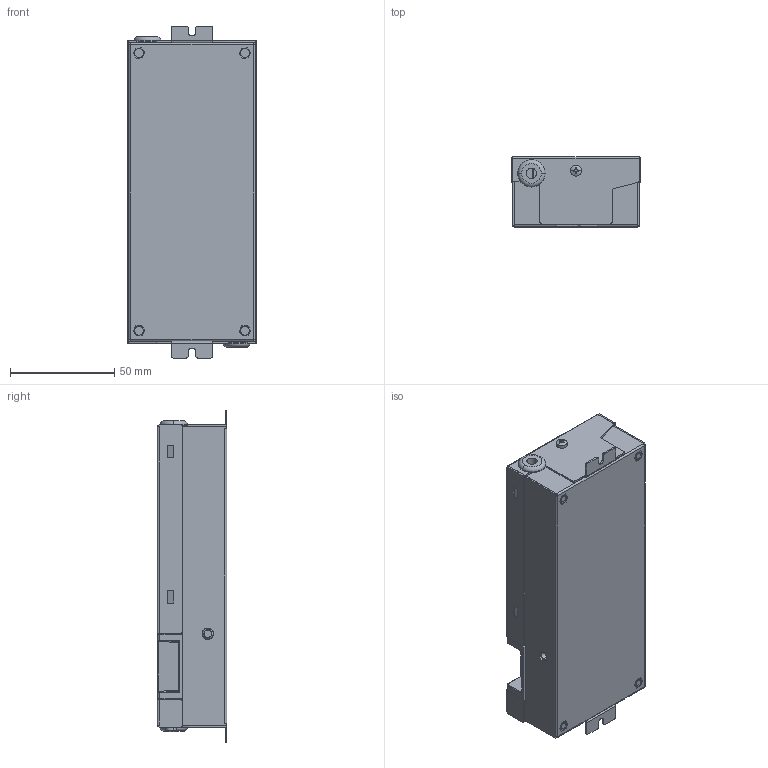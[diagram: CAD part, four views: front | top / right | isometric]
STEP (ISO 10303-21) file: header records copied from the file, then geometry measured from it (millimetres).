
FILE_DESCRIPTION (( 'STEP AP203' ), '1' );
FILE_NAME ('Box Assy-XWV96-2448Z-UNV-I AL T0.8mm.STEP', '2020-07-23T03:01:26', ( '' ), ( '' ), 'SwSTEP 2.0', 'SolidWorks 2017', '' );
FILE_SCHEMA (( 'CONFIG_CONTROL_DESIGN' ));
Length unit declared in the file: millimetre
Products named in the file (12): 515-20002420   Cover-XWV96-2448Z-UNV-I  AL  T0.8mm; Bushing-圓環; 傷赽-CJTCONN; 515-20002410  Base-XWV96-2448Z-UNV-I  AL  T0.8mm; BSO M2.5-5.0-外徑4.2mm; 550-40012880-02-1; PHONE JACK; PCBA-XWV96-2448Z-UNV-I; 531-00000450    1145-0303; 515-20002410  Base-XWV96-2448Z-UNV-I AL  T0.8mm; Box Assy-XWV96-2448Z-UNV-I  AL T0.8mm; M3x6
Assembly tree (20 placements, depth 3):
  Box Assy-XWV96-2448Z-UNV-I  AL T0.8mm
    515-20002410  Base-XWV96-2448Z-UNV-I  AL  T0.8mm
      515-20002410  Base-XWV96-2448Z-UNV-I AL  T0.8mm
      BSO M2.5-5.0-外徑4.2mm  x4
    M3x6  x6
    531-00000450    1145-0303
    Bushing-圓環  x2
    515-20002420   Cover-XWV96-2448Z-UNV-I  AL  T0.8mm
    PCBA-XWV96-2448Z-UNV-I
      PHONE JACK
      傷赽-CJTCONN
      550-40012880-02-1
Bounding box: 62.4 x 33.4 x 159.4 mm (x, y, z)
Volume: 44936.4 mm3; surface area: 94999.5 mm2
Topology: 18 solids, 18 shells, 1058 faces, 2622 edges, 1624 vertices
Faces by surface type: plane 583, cylinder 315, bspline 90, cone 44, torus 26
Entity records: 28169 total; most frequent: CARTESIAN_POINT 7067, ORIENTED_EDGE 4168, DIRECTION 3934, EDGE_CURVE 2084, LINE 1358, VECTOR 1358, AXIS2_PLACEMENT_3D 1288, VERTEX_POINT 1278
